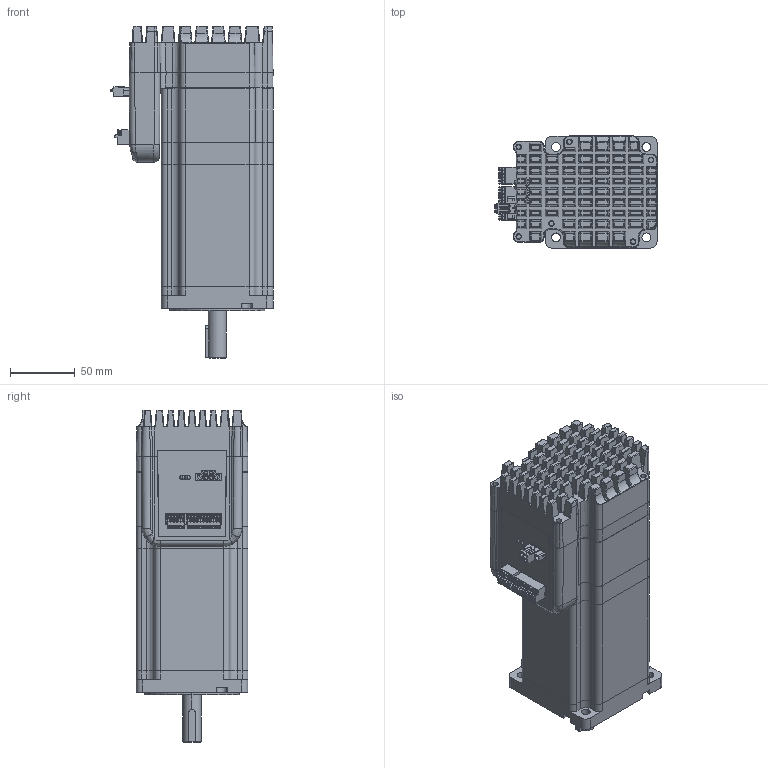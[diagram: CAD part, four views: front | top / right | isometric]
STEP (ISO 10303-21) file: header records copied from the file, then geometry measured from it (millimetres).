
FILE_DESCRIPTION (( 'STEP AP203' ), '1' );
FILE_NAME ('iHSS86-80-100-SC.STEP', '2023-03-29T03:35:31', ( 'USER-' ), ( 'MS' ), 'SwSTEP 2.0', 'SolidWorks 2018', '' );
FILE_SCHEMA (( 'CONFIG_CONTROL_DESIGN' ));
Length unit declared in the file: millimetre
Products named in the file (26): 葩璃 (2) ^iHSS86_蚾饜极12; 15EDGKDM-3^_iHSS86后一体驱动_装配体12; 复件 (6) ^_iHSS86后一体驱动_装配体12; 葩璃 (3) ^iHSS86_蚾饜极12; 57JS15EDGKD-2^_iHSS86后一体驱动_装配体12; 复件 (7) ^_iHSS86后一体驱动_装配体12; iHSS86^蚾饜极12; ^iHSS86后一体驱动_装配体12; 复件 (8) ^_iHSS86后一体驱动_装配体12; ^_iHSS86后一体驱动_装配体12; 复件 (2) 15EDGVC-2^_iHSS86后一体驱动_装配体12; 复件 (2) ^_iHSS86后一体驱动_装配体12; iHSS86后一体驱动^装配体12; 复件 (9) ^_iHSS86后一体驱动_装配体12; 复件 (3) ^_iHSS86后一体驱动_装配体12; 5x25す瑩; 复件 (10) ^_iHSS86后一体驱动_装配体12; 复件 (4) ^_iHSS86后一体驱动_装配体12; 86x42刹车（宽58.2mm）; 15EDGVM-5^_iHSS86后一体驱动_装配体12; 15EDGVC-2^_iHSS86后一体驱动_装配体12; ^iHSS86_蚾饜极12; iHSS86-80-100-SC; 15EDGKD-2^_iHSS86后一体驱动_装配体12; 复件 (5) ^_iHSS86后一体驱动_装配体12
Assembly tree (34 placements, depth 4):
  iHSS86-80-100-SC
    iHSS86^蚾饜极12
      ^iHSS86_蚾饜极12
      葩璃 (2) ^iHSS86_蚾饜极12
      葩璃 (3) ^iHSS86_蚾饜极12
    iHSS86后一体驱动^装配体12
      ^iHSS86后一体驱动_装配体12
        ^_iHSS86后一体驱动_装配体12
        复件 (2) ^_iHSS86后一体驱动_装配体12
        复件 (3) ^_iHSS86后一体驱动_装配体12  x2
        复件 (4) ^_iHSS86后一体驱动_装配体12  x2
        15EDGVC-2^_iHSS86后一体驱动_装配体12
        复件 (5) ^_iHSS86后一体驱动_装配体12
        复件 (6) ^_iHSS86后一体驱动_装配体12  x8
        复件 (7) ^_iHSS86后一体驱动_装配体12
        复件 (8) ^_iHSS86后一体驱动_装配体12
        复件 (2) 15EDGVC-2^_iHSS86后一体驱动_装配体12
        复件 (9) ^_iHSS86后一体驱动_装配体12
        复件 (10) ^_iHSS86后一体驱动_装配体12
        15EDGVM-5^_iHSS86后一体驱动_装配体12
        15EDGKD-2^_iHSS86后一体驱动_装配体12
        15EDGKDM-3^_iHSS86后一体驱动_装配体12
        57JS15EDGKD-2^_iHSS86后一体驱动_装配体12
      ^iHSS86后一体驱动_装配体12
    5x25す瑩
    86x42刹车（宽58.2mm）
Bounding box: 124.8 x 86 x 255.55 mm (x, y, z)
Volume: 1305593 mm3; surface area: 279696.6 mm2
Topology: 43 solids, 183 shells, 7148 faces, 20227 edges, 13178 vertices
Faces by surface type: plane 4663, cylinder 1849, sphere 306, cone 189, bspline 132, torus 9
Entity records: 181922 total; most frequent: CARTESIAN_POINT 47207, ORIENTED_EDGE 28380, DIRECTION 25247, EDGE_CURVE 14578, VERTEX_POINT 9322, AXIS2_PLACEMENT_3D 8473, VECTOR 8301, LINE 8301
